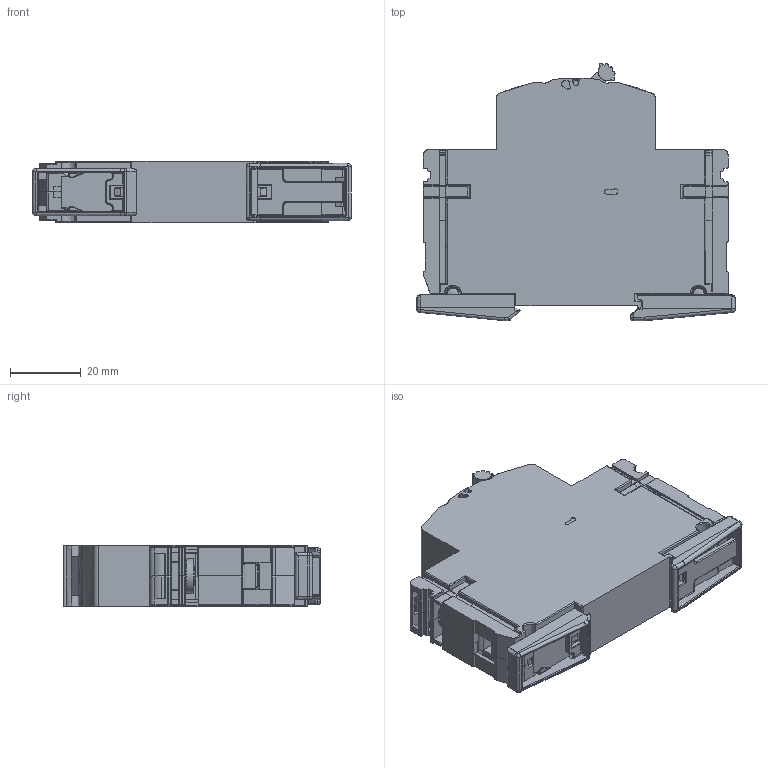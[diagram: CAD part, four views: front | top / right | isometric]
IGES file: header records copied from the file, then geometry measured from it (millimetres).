
Start section: SolidWorks IGES file using analytic representation for surfaces
Global section: file name: U:\14_RD\05_Technical_office\04_Office\Hrdinova\3D modely - IGES\Minia\APN-1.IGS; native system: SolidWorks 2011; preprocessor: SolidWorks 2011; author: adhrja3; date: 170615.065830; units: millimetre
Bounding box: 90.21 x 72.92 x 17.55 mm (x, y, z)
Surface area: 22223.3 mm2 (no closed solid volume)
Topology: 0 solids, 0 shells, 1784 faces, 12838 edges, 12784 vertices
Faces by surface type: bspline 1172, revolution 612
